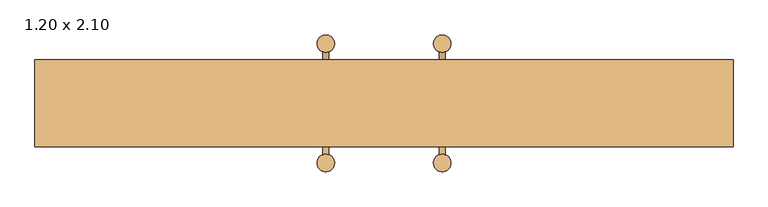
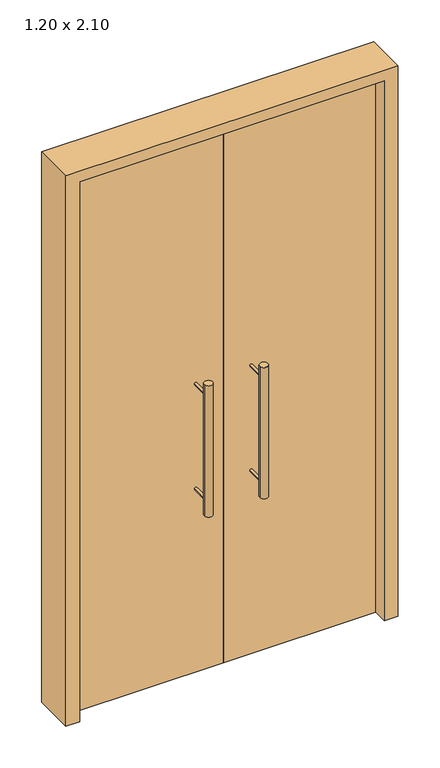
"""IFC4 building model written with IfcOpenShell, lengths in millimetres: door geometry, Porta pivotante dupla sem revestimento : 1.20 x 2.10."""

from ifc_helpers import new_model, si_unit, point, frame, frame_2d, origin, origin_with_axes, place, context, project, spatial, polyline, circle_curve, trimmed, segment, composite_curve, outline, extrude, faceted_brep, source, transform, mapped, element, save


def door_1_20_x_2_10_046a985c(model_context):
    return source(origin(), model_context, "Body", "SolidModel", [
        extrude(outline(composite_curve([segment(trimmed(circle_curve(frame_2d((-100.0, 102.5)), 15.0), [point((-85.0, 102.5))], [point((-115.0, 102.5))], False, "CARTESIAN"), True, "CONTINUOUS"), segment(trimmed(circle_curve(frame_2d((-100.0, 102.5)), 15.0), [point((-115.0, 102.5))], [point((-85.0, 102.5))], False, "CARTESIAN"), True, "CONTINUOUS")], self_intersect=False)), frame((0.0, 0.0, 650.0), z_axis=(0.0, 0.0, 1.0), x_axis=(1.0, 0.0, 0.0)), (0.0, 0.0, 1.0), 500.0),
        extrude(outline(composite_curve([segment(trimmed(circle_curve(frame_2d((1100.0, -100.0)), 5.0), [point((1100.0, -95.0))], [point((1100.0, -105.0))], False, "CARTESIAN"), True, "CONTINUOUS"), segment(trimmed(circle_curve(frame_2d((1100.0, -100.0)), 5.0), [point((1100.0, -105.0))], [point((1100.0, -95.0))], False, "CARTESIAN"), True, "CONTINUOUS")], self_intersect=False)), frame((0.0, 22.5, 0.0), z_axis=(0.0, 1.0, 0.0), x_axis=(0.0, 0.0, 1.0)), (0.0, 0.0, 1.0), 80.0),
        extrude(outline(composite_curve([segment(trimmed(circle_curve(frame_2d((700.0, -100.0)), 5.0), [point((700.0, -95.0))], [point((700.0, -105.0))], False, "CARTESIAN"), True, "CONTINUOUS"), segment(trimmed(circle_curve(frame_2d((700.0, -100.0)), 5.0), [point((700.0, -105.0))], [point((700.0, -95.0))], False, "CARTESIAN"), True, "CONTINUOUS")], self_intersect=False)), frame((0.0, 22.5, 0.0), z_axis=(0.0, 1.0, 0.0), x_axis=(0.0, 0.0, 1.0)), (0.0, 0.0, 1.0), 80.0),
        extrude(outline(composite_curve([segment(trimmed(circle_curve(frame_2d((1100.0, -100.0)), 5.0), [point((1100.0, -95.0))], [point((1100.0, -105.0))], False, "CARTESIAN"), True, "CONTINUOUS"), segment(trimmed(circle_curve(frame_2d((1100.0, -100.0)), 5.0), [point((1100.0, -105.0))], [point((1100.0, -95.0))], False, "CARTESIAN"), True, "CONTINUOUS")], self_intersect=False)), frame((0.0, -102.5, 0.0), z_axis=(0.0, 1.0, 0.0), x_axis=(0.0, 0.0, 1.0)), (0.0, 0.0, 1.0), 80.0),
        extrude(outline(composite_curve([segment(trimmed(circle_curve(frame_2d((700.0, -100.0)), 5.0), [point((700.0, -95.0))], [point((700.0, -105.0))], False, "CARTESIAN"), True, "CONTINUOUS"), segment(trimmed(circle_curve(frame_2d((700.0, -100.0)), 5.0), [point((700.0, -105.0))], [point((700.0, -95.0))], False, "CARTESIAN"), True, "CONTINUOUS")], self_intersect=False)), frame((0.0, -102.5, 0.0), z_axis=(0.0, 1.0, 0.0), x_axis=(0.0, 0.0, 1.0)), (0.0, 0.0, 1.0), 80.0),
        extrude(outline(composite_curve([segment(trimmed(circle_curve(frame_2d((-100.0, -102.5)), 15.0), [point((-85.0, -102.5))], [point((-115.0, -102.5))], False, "CARTESIAN"), True, "CONTINUOUS"), segment(trimmed(circle_curve(frame_2d((-100.0, -102.5)), 15.0), [point((-115.0, -102.5))], [point((-85.0, -102.5))], False, "CARTESIAN"), True, "CONTINUOUS")], self_intersect=False)), frame((0.0, 0.0, 650.0), z_axis=(0.0, 0.0, 1.0), x_axis=(1.0, 0.0, 0.0)), (0.0, 0.0, 1.0), 500.0),
        extrude(outline(composite_curve([segment(trimmed(circle_curve(frame_2d((100.0, 102.5)), 15.0), [point((85.0, 102.5))], [point((115.0, 102.5))], False, "CARTESIAN"), True, "CONTINUOUS"), segment(trimmed(circle_curve(frame_2d((100.0, 102.5)), 15.0), [point((115.0, 102.5))], [point((85.0, 102.5))], False, "CARTESIAN"), True, "CONTINUOUS")], self_intersect=False)), frame((0.0, 0.0, 650.0), z_axis=(0.0, 0.0, 1.0), x_axis=(1.0, 0.0, 0.0)), (0.0, 0.0, 1.0), 500.0),
        extrude(outline(composite_curve([segment(trimmed(circle_curve(frame_2d((1100.0, 100.0)), 5.0), [point((1100.0, 95.0))], [point((1100.0, 105.0))], False, "CARTESIAN"), True, "CONTINUOUS"), segment(trimmed(circle_curve(frame_2d((1100.0, 100.0)), 5.0), [point((1100.0, 105.0))], [point((1100.0, 95.0))], False, "CARTESIAN"), True, "CONTINUOUS")], self_intersect=False)), frame((0.0, 22.5, 0.0), z_axis=(0.0, 1.0, 0.0), x_axis=(0.0, 0.0, 1.0)), (0.0, 0.0, 1.0), 80.0),
        extrude(outline(composite_curve([segment(trimmed(circle_curve(frame_2d((700.0, 100.0)), 5.0), [point((700.0, 95.0))], [point((700.0, 105.0))], False, "CARTESIAN"), True, "CONTINUOUS"), segment(trimmed(circle_curve(frame_2d((700.0, 100.0)), 5.0), [point((700.0, 105.0))], [point((700.0, 95.0))], False, "CARTESIAN"), True, "CONTINUOUS")], self_intersect=False)), frame((0.0, 22.5, 0.0), z_axis=(0.0, 1.0, 0.0), x_axis=(0.0, 0.0, 1.0)), (0.0, 0.0, 1.0), 80.0),
        extrude(outline(composite_curve([segment(trimmed(circle_curve(frame_2d((1100.0, 100.0)), 5.0), [point((1100.0, 95.0))], [point((1100.0, 105.0))], False, "CARTESIAN"), True, "CONTINUOUS"), segment(trimmed(circle_curve(frame_2d((1100.0, 100.0)), 5.0), [point((1100.0, 105.0))], [point((1100.0, 95.0))], False, "CARTESIAN"), True, "CONTINUOUS")], self_intersect=False)), frame((0.0, -102.5, 0.0), z_axis=(0.0, 1.0, 0.0), x_axis=(0.0, 0.0, 1.0)), (0.0, 0.0, 1.0), 80.0),
        extrude(outline(composite_curve([segment(trimmed(circle_curve(frame_2d((700.0, 100.0)), 5.0), [point((700.0, 95.0))], [point((700.0, 105.0))], False, "CARTESIAN"), True, "CONTINUOUS"), segment(trimmed(circle_curve(frame_2d((700.0, 100.0)), 5.0), [point((700.0, 105.0))], [point((700.0, 95.0))], False, "CARTESIAN"), True, "CONTINUOUS")], self_intersect=False)), frame((0.0, -102.5, 0.0), z_axis=(0.0, 1.0, 0.0), x_axis=(0.0, 0.0, 1.0)), (0.0, 0.0, 1.0), 80.0),
        extrude(outline(composite_curve([segment(trimmed(circle_curve(frame_2d((100.0, -102.5)), 15.0), [point((85.0, -102.5))], [point((115.0, -102.5))], False, "CARTESIAN"), True, "CONTINUOUS"), segment(trimmed(circle_curve(frame_2d((100.0, -102.5)), 15.0), [point((115.0, -102.5))], [point((85.0, -102.5))], False, "CARTESIAN"), True, "CONTINUOUS")], self_intersect=False)), frame((0.0, 0.0, 650.0), z_axis=(0.0, 0.0, 1.0), x_axis=(1.0, 0.0, 0.0)), (0.0, 0.0, 1.0), 500.0),
        extrude(outline(polyline([(0.0, 22.5), (560.0, 22.5), (560.0, -22.5), (0.0, -22.5), (0.0, 22.5)])), origin_with_axes(), (0.0, 0.0, 1.0), 2060.0),
        extrude(outline(polyline([(0.0, 22.5), (0.0, -22.5), (-560.0, -22.5), (-560.0, 22.5), (0.0, 22.5)])), origin_with_axes(), (0.0, 0.0, 1.0), 2060.0),
        faceted_brep([(600.0, 75.0, 2100.0), (600.0, -75.0, 2100.0), (600.0, -75.0, 0.0), (600.0, 75.0, 0.0), (-600.0, -75.0, 2100.0), (-600.0, -75.0, 0.0), (-550.0, -75.0, 0.0), (-550.0, -75.0, 2060.0), (550.0, -75.0, 2060.0), (550.0, -75.0, 0.0), (560.0, 75.0, 0.0), (550.0, -22.5, 0.0), (560.0, -22.5, 0.0), (-600.0, 75.0, 0.0), (-600.0, 75.0, 2100.0), (560.0, 75.0, 2060.0), (-560.0, 75.0, 2060.0), (-560.0, 75.0, 0.0), (-560.0, -22.5, 0.0), (-550.0, -22.5, 0.0), (-550.0, -22.5, 2060.0), (550.0, -22.5, 2060.0), (560.0, -22.5, 2060.0), (-560.0, -22.5, 2060.0)], [[[0, 1, 2, 3]], [[4, 5, 6, 7, 8, 9, 2, 1]], [[10, 3, 2, 9, 11, 12]], [[13, 14, 0, 3, 10, 15, 16, 17]], [[4, 14, 13, 5]], [[13, 17, 18, 19, 6, 5]], [[6, 19, 20, 7]], [[11, 9, 8, 21]], [[10, 12, 22, 15]], [[18, 17, 16, 23]], [[12, 11, 21, 22]], [[19, 18, 23, 20]], [[21, 8, 7, 20, 23, 16, 15, 22]], [[1, 0, 14, 4]]]),
    ])


if __name__ == "__main__":
    model = new_model("IFC4")
    model_context = context("Model", 3, world=origin())
    ifc_project = project(units=[si_unit("LENGTHUNIT", "METRE", prefix="MILLI")], contexts=[model_context])
    site = spatial("IfcSite", under=ifc_project)
    building = spatial("IfcBuilding", under=site)
    placement = place(None, origin())
    door_1_20_x_2_10_shape = door_1_20_x_2_10_046a985c(model_context)
    element("IfcDoor", 1, ObjectType="Porta pivotante dupla sem revestimento : 1.20 x 2.10", at=placement, inside=building, context=model_context, shape_type="MappedRepresentation", body=[
        mapped(door_1_20_x_2_10_shape, transform((0.0, 0.0, 0.0), x_axis=(1.0, 0.0, 0.0), y_axis=(0.0, 1.0, 0.0), z_axis=(0.0, 0.0, 1.0))),
    ])
    save(model, "model.ifc")
